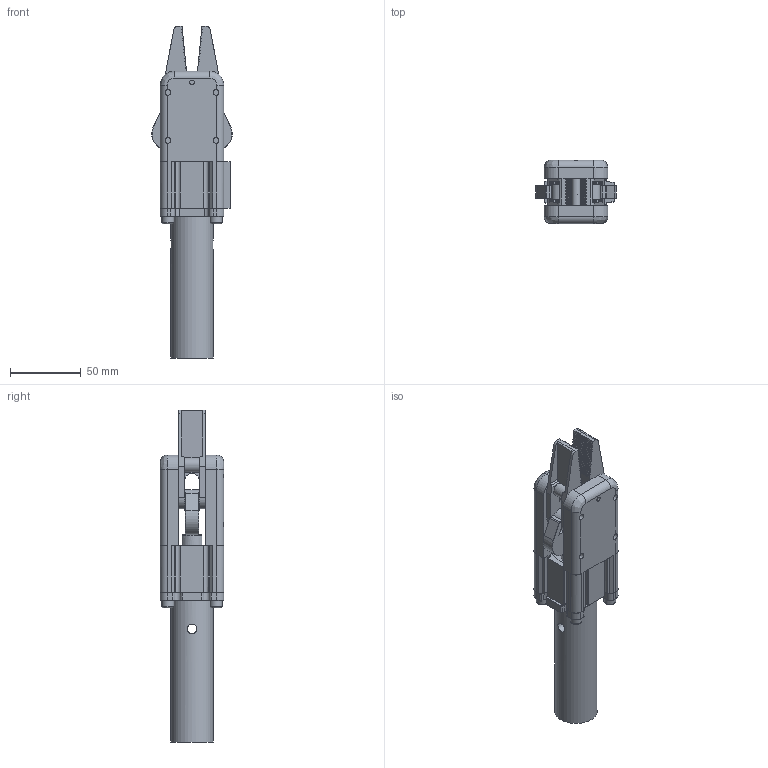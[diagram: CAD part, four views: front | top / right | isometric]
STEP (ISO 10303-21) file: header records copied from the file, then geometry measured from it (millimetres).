
FILE_DESCRIPTION(/* description */ (''),/* implementation_level */ '2;1');
FILE_NAME(/* name */ '8Y00278-GRP32A--30.stp',/* time_stamp */ '2023-02-22T10:37:20+08:00',/* author */ (''),/* organization */ (''),/* preprocessor_version */ 'ST-DEVELOPER v16',/* originating_system */ 'SIEMENS PLM Software NX 10.0',/* authorisation */ '');
FILE_SCHEMA (('AUTOMOTIVE_DESIGN { 1 0 10303 214 3 1 1 1 }'));
Length unit declared in the file: millimetre
Products named in the file (1): _model26
Bounding box: 56.95 x 45 x 234.95 mm (x, y, z)
Volume: 202389.4 mm3; surface area: 81729.6 mm2
Topology: 10 solids, 16 shells, 775 faces, 1905 edges, 1186 vertices
Faces by surface type: plane 517, cylinder 164, cone 85, torus 5, bspline 4
Full cylindrical faces by diameter (mm): 3.3 x1, 4 x1, 4.1 x1, 4.2 x8, 4.5 x1, 5 x4, 5.2 x4, 5.5 x4, 6 x9, 6.647 x1, 6.8 x1, 7 x3, 8 x6, 8.5 x4, 8.566 x2, 8.6 x1, 9 x8, 10 x6, 13 x1, 14 x1, 15 x2, 16 x2, 17 x12, 21 x1, 30 x1, 32 x1, 34 x2
Entity records: 27413 total; most frequent: CARTESIAN_POINT 4178, DIRECTION 3755, ORIENTED_EDGE 3406, EDGE_CURVE 1703, AXIS2_PLACEMENT_3D 1293, LINE 1169, VECTOR 1169, VERTEX_POINT 1156
